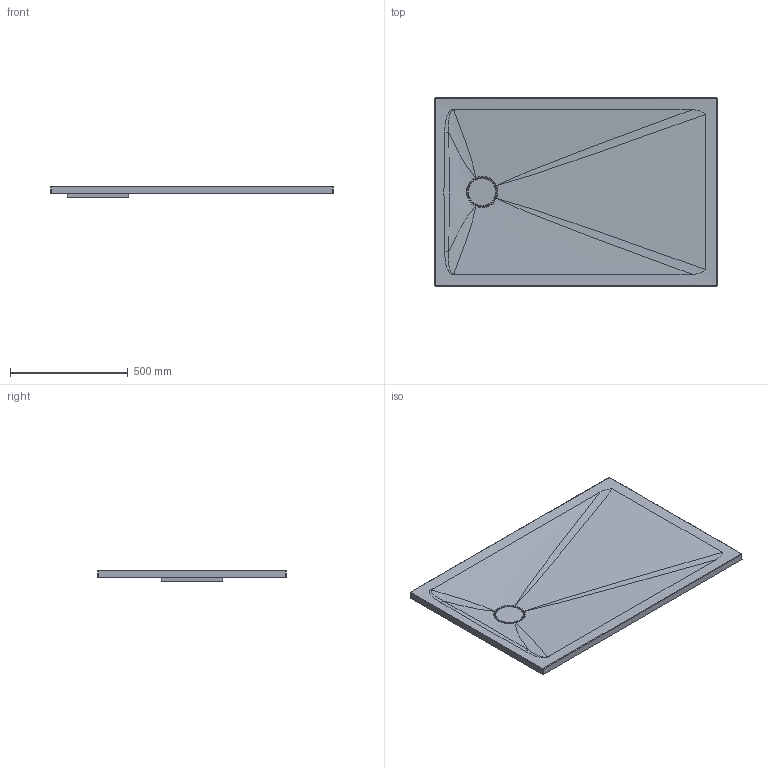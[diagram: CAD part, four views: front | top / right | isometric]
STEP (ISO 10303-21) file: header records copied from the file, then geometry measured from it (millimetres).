
FILE_DESCRIPTION (( 'STEP AP214' ), '1' );
FILE_NAME ('ARON 120x80.STEP', '2024-05-13T11:46:05', ( '' ), ( '' ), 'SwSTEP 2.0', 'SolidWorks 2021', '' );
FILE_SCHEMA (( 'AUTOMOTIVE_DESIGN' ));
Length unit declared in the file: millimetre
Products named in the file (1): ARON 120x80
Bounding box: 1200 x 800 x 47.99 mm (x, y, z)
Volume: 24041276.8 mm3; surface area: 2073650.9 mm2
Topology: 2 solids, 2 shells, 75 faces, 170 edges, 101 vertices
Faces by surface type: bspline 39, cylinder 19, plane 17
Full cylindrical faces by diameter (mm): 9 x3, 90 x1, 119 x1
Entity records: 11629 total; most frequent: CARTESIAN_POINT 10245, ORIENTED_EDGE 316, DIRECTION 166, EDGE_CURVE 158, VERTEX_POINT 101, B_SPLINE_CURVE_WITH_KNOTS 93, EDGE_LOOP 91, FACE_OUTER_BOUND 83
